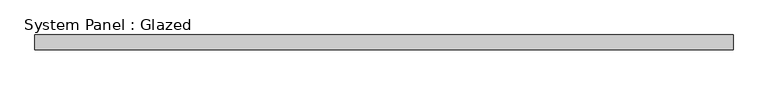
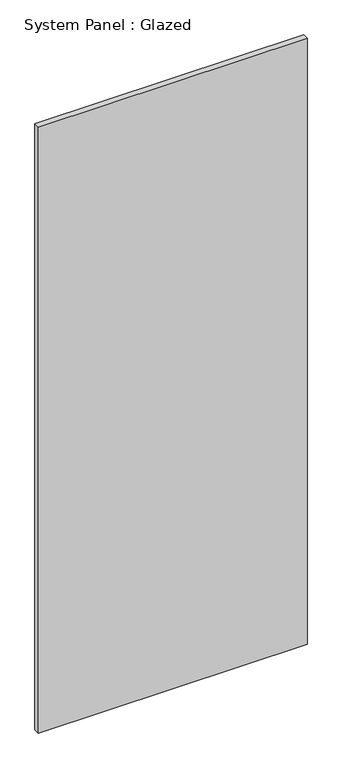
"""IFC4 building model written with IfcOpenShell, lengths in millimetres: plate geometry, System Panel : Glazed."""

from ifc_helpers import new_model, si_unit, origin, origin_with_axes, place, context, project, spatial, polyline, outline, extrude, source, transform, mapped, element, save


def system_panel_glazed_8cc433a1(model_context):
    return source(origin(), model_context, "Body", "SweptSolid", [
        extrude(outline(polyline([(587.5000002, -25.0), (-587.5000002, -25.0), (-587.5000002, 0.0), (587.5000002, 0.0), (587.5000002, -25.0)])), origin_with_axes(), (0.0, 0.0, 1.0), 2800.0),
    ])


if __name__ == "__main__":
    model = new_model("IFC4")
    model_context = context("Model", 3, world=origin())
    ifc_project = project(units=[si_unit("LENGTHUNIT", "METRE", prefix="MILLI")], contexts=[model_context])
    site = spatial("IfcSite", under=ifc_project)
    building = spatial("IfcBuilding", under=site)
    placement = place(None, origin())
    system_panel_glazed_shape = system_panel_glazed_8cc433a1(model_context)
    element("IfcPlate", 1, ObjectType="System Panel : Glazed", at=placement, inside=building, context=model_context, shape_type="MappedRepresentation", body=[
        mapped(system_panel_glazed_shape, transform((0.0, 0.0, 0.0), x_axis=(1.0, 0.0, 0.0), y_axis=(0.0, 1.0, 0.0), z_axis=(0.0, 0.0, 1.0))),
    ])
    save(model, "model.ifc")
